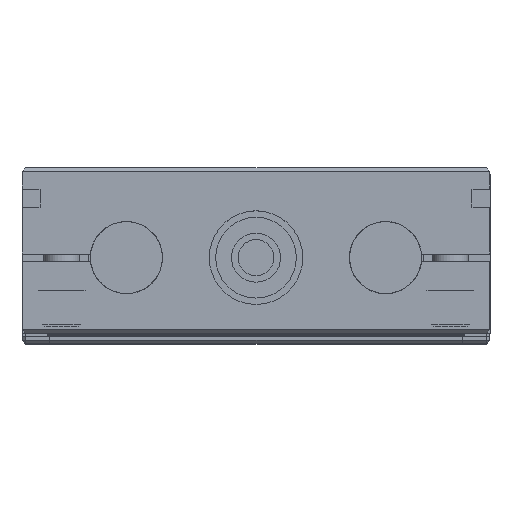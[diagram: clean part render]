
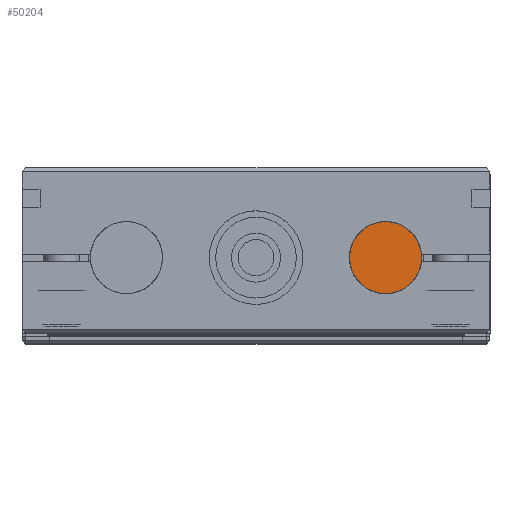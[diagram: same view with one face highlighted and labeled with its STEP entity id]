
A CAD part, top view. The second image highlights one B-rep face of the part: STEP entity #50204.
In plain terms, the highlighted planar face has unit normal (0, 0, 1) as drawn and (1, 0, 0) by its records, which use the part's own axes.
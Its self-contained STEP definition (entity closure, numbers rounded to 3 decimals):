
#176 = ORIENTED_EDGE ( 'NONE', *, *, #32447, .T. ) ;
#3737 = DIRECTION ( 'NONE',  ( 1., 0., 0. ) ) ;
#3792 = CARTESIAN_POINT ( 'NONE',  ( 590., 25., 36. ) ) ;
#4377 = CARTESIAN_POINT ( 'NONE',  ( 590., 25., 46. ) ) ;
#6632 = CARTESIAN_POINT ( 'NONE',  ( 590., 25., 26. ) ) ;
#7032 = AXIS2_PLACEMENT_3D ( 'NONE', #52071, #3737, #22068 ) ;
#7613 = AXIS2_PLACEMENT_3D ( 'NONE', #3792, #34960, #46281 ) ;
#13325 = CARTESIAN_POINT ( 'NONE',  ( 590., 25., 36. ) ) ;
#21147 = AXIS2_PLACEMENT_3D ( 'NONE', #13325, #42986, #37901 ) ;
#21284 = EDGE_LOOP ( 'NONE', ( #176, #26183 ) ) ;
#21939 = CIRCLE ( 'NONE', #7032, 10. ) ;
#22068 = DIRECTION ( 'NONE',  ( 0., 0., -1. ) ) ;
#26183 = ORIENTED_EDGE ( 'NONE', *, *, #30614, .T. ) ;
#27921 = VERTEX_POINT ( 'NONE', #6632 ) ;
#30614 = EDGE_CURVE ( 'NONE', #72127, #27921, #59753, .T. ) ;
#32447 = EDGE_CURVE ( 'NONE', #27921, #72127, #21939, .T. ) ;
#34960 = DIRECTION ( 'NONE',  ( 1., 0., 0. ) ) ;
#37901 = DIRECTION ( 'NONE',  ( 0., 0., -1. ) ) ;
#42986 = DIRECTION ( 'NONE',  ( 1., 0., 0. ) ) ;
#46281 = DIRECTION ( 'NONE',  ( 0., 0., -1. ) ) ;
#50204 = ADVANCED_FACE ( 'NONE', ( #52129 ), #51384, .T. ) ;
#51384 = PLANE ( 'NONE',  #7613 ) ;
#52071 = CARTESIAN_POINT ( 'NONE',  ( 590., 25., 36. ) ) ;
#52129 = FACE_OUTER_BOUND ( 'NONE', #21284, .T. ) ;
#59753 = CIRCLE ( 'NONE', #21147, 10. ) ;
#72127 = VERTEX_POINT ( 'NONE', #4377 ) ;
